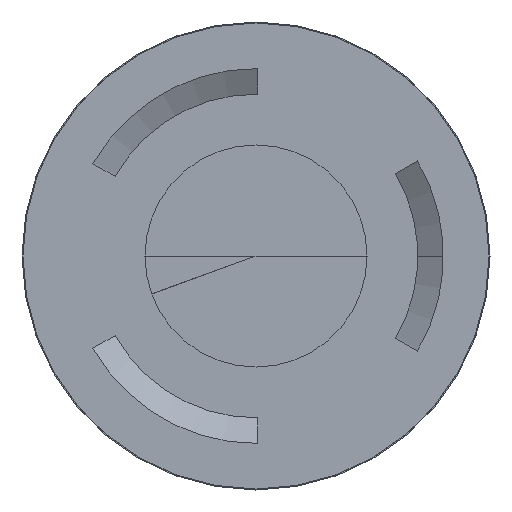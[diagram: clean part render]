
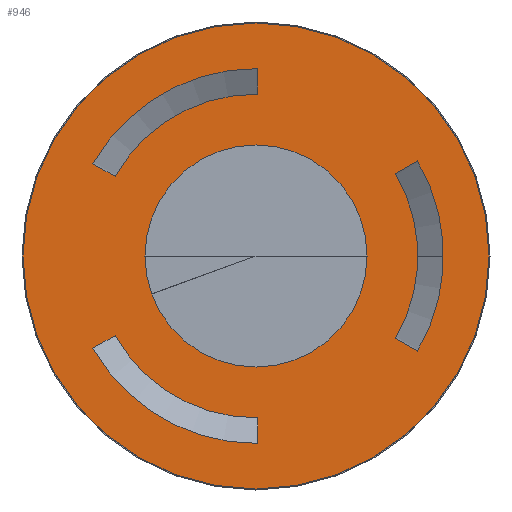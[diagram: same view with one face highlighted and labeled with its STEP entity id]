
A CAD part, front view. The second image highlights one B-rep face of the part: STEP entity #946.
In plain terms, the highlighted planar face has unit normal (0, -1, 0).
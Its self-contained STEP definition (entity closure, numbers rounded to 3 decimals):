
#203=DIRECTION('',(-0.866,0.,-0.5));
#204=VECTOR('',#203,7.092);
#205=CARTESIAN_POINT('',(-39.066,-966.,-22.04));
#206=LINE('',#205,#204);
#207=CARTESIAN_POINT('',(0.,-966.,0.));
#208=DIRECTION('',(0.,-1.,0.));
#209=DIRECTION('',(-0.87,0.,-0.493));
#210=AXIS2_PLACEMENT_3D('',#207,#208,#209);
#212=DIRECTION('',(0.,0.,1.));
#213=VECTOR('',#212,7.092);
#214=CARTESIAN_POINT('',(0.446,-966.,-51.944));
#215=LINE('',#214,#213);
#216=CARTESIAN_POINT('',(0.,-966.,0.));
#217=DIRECTION('',(0.,1.,0.));
#218=DIRECTION('',(0.01,0.,-1.));
#219=AXIS2_PLACEMENT_3D('',#216,#217,#218);
#221=CARTESIAN_POINT('',(0.,-966.,0.));
#222=DIRECTION('',(0.,1.,0.));
#223=DIRECTION('',(0.861,0.,0.509));
#224=AXIS2_PLACEMENT_3D('',#221,#222,#223);
#226=DIRECTION('',(0.866,0.,-0.5));
#227=VECTOR('',#226,7.092);
#228=CARTESIAN_POINT('',(38.62,-966.,-22.812));
#229=LINE('',#228,#227);
#230=CARTESIAN_POINT('',(0.,-966.,0.));
#231=DIRECTION('',(0.,-1.,0.));
#232=DIRECTION('',(0.862,0.,-0.507));
#233=AXIS2_PLACEMENT_3D('',#230,#231,#232);
#235=DIRECTION('',(-0.866,0.,-0.5));
#236=VECTOR('',#235,7.092);
#237=CARTESIAN_POINT('',(44.762,-966.,26.358));
#238=LINE('',#237,#236);
#239=DIRECTION('',(0.866,0.,-0.5));
#240=VECTOR('',#239,7.092);
#241=CARTESIAN_POINT('',(-45.208,-966.,25.586));
#242=LINE('',#241,#240);
#243=CARTESIAN_POINT('',(0.,-966.,0.));
#244=DIRECTION('',(0.,1.,0.));
#245=DIRECTION('',(-0.871,0.,0.491));
#246=AXIS2_PLACEMENT_3D('',#243,#244,#245);
#248=DIRECTION('',(0.,0.,1.));
#249=VECTOR('',#248,7.092);
#250=CARTESIAN_POINT('',(0.446,-966.,44.852));
#251=LINE('',#250,#249);
#252=CARTESIAN_POINT('',(0.,-966.,0.));
#253=DIRECTION('',(0.,-1.,0.));
#254=DIRECTION('',(0.009,0.,1.));
#255=AXIS2_PLACEMENT_3D('',#252,#253,#254);
#257=CARTESIAN_POINT('',(0.,-966.,0.));
#258=DIRECTION('',(0.,1.,0.));
#259=DIRECTION('',(1.,0.,0.));
#260=AXIS2_PLACEMENT_3D('',#257,#258,#259);
#262=CARTESIAN_POINT('',(0.,-966.,0.));
#263=DIRECTION('',(0.,1.,0.));
#264=DIRECTION('',(-1.,0.,0.));
#265=AXIS2_PLACEMENT_3D('',#262,#263,#264);
#267=CARTESIAN_POINT('',(0.,-966.,0.));
#268=DIRECTION('',(0.,1.,0.));
#269=DIRECTION('',(1.,0.,0.));
#270=AXIS2_PLACEMENT_3D('',#267,#268,#269);
#272=CARTESIAN_POINT('',(0.,-966.,0.));
#273=DIRECTION('',(0.,1.,0.));
#274=DIRECTION('',(-1.,0.,0.));
#275=AXIS2_PLACEMENT_3D('',#272,#273,#274);
#526=CARTESIAN_POINT('',(64.586,-966.,0.));
#527=CARTESIAN_POINT('',(-64.586,-966.,0.));
#528=VERTEX_POINT('',#526);
#529=VERTEX_POINT('',#527);
#530=CARTESIAN_POINT('',(30.784,-966.,0.));
#531=CARTESIAN_POINT('',(-30.784,-966.,0.));
#532=VERTEX_POINT('',#530);
#533=VERTEX_POINT('',#531);
#534=CARTESIAN_POINT('',(-39.066,-966.,22.04));
#535=CARTESIAN_POINT('',(-45.208,-966.,25.586));
#536=VERTEX_POINT('',#534);
#537=VERTEX_POINT('',#535);
#538=CARTESIAN_POINT('',(0.446,-966.,51.944));
#539=VERTEX_POINT('',#538);
#540=CARTESIAN_POINT('',(0.446,-966.,44.852));
#541=VERTEX_POINT('',#540);
#542=CARTESIAN_POINT('',(38.62,-966.,-22.812));
#543=CARTESIAN_POINT('',(38.62,-966.,22.812));
#544=VERTEX_POINT('',#542);
#545=VERTEX_POINT('',#543);
#546=CARTESIAN_POINT('',(44.762,-966.,26.358));
#547=VERTEX_POINT('',#546);
#548=CARTESIAN_POINT('',(44.762,-966.,-26.358));
#549=VERTEX_POINT('',#548);
#550=CARTESIAN_POINT('',(-45.208,-966.,-25.586));
#551=CARTESIAN_POINT('',(-39.066,-966.,-22.04));
#552=VERTEX_POINT('',#550);
#553=VERTEX_POINT('',#551);
#554=CARTESIAN_POINT('',(0.446,-966.,-44.852));
#555=VERTEX_POINT('',#554);
#556=CARTESIAN_POINT('',(0.446,-966.,-51.944));
#557=VERTEX_POINT('',#556);
#899=CARTESIAN_POINT('',(0.,-966.,0.));
#900=DIRECTION('',(0.,1.,0.));
#901=DIRECTION('',(1.,0.,0.));
#902=AXIS2_PLACEMENT_3D('',#899,#900,#901);
#903=PLANE('',#902);
#905=ORIENTED_EDGE('',*,*,#904,.T.);
#907=ORIENTED_EDGE('',*,*,#906,.T.);
#908=EDGE_LOOP('',(#905,#907));
#909=FACE_OUTER_BOUND('',#908,.F.);
#911=ORIENTED_EDGE('',*,*,#910,.T.);
#913=ORIENTED_EDGE('',*,*,#912,.T.);
#915=ORIENTED_EDGE('',*,*,#914,.T.);
#917=ORIENTED_EDGE('',*,*,#916,.T.);
#918=EDGE_LOOP('',(#911,#913,#915,#917));
#919=FACE_BOUND('',#918,.F.);
#921=ORIENTED_EDGE('',*,*,#920,.T.);
#923=ORIENTED_EDGE('',*,*,#922,.T.);
#925=ORIENTED_EDGE('',*,*,#924,.T.);
#927=ORIENTED_EDGE('',*,*,#926,.T.);
#928=EDGE_LOOP('',(#921,#923,#925,#927));
#929=FACE_BOUND('',#928,.F.);
#931=ORIENTED_EDGE('',*,*,#930,.F.);
#933=ORIENTED_EDGE('',*,*,#932,.F.);
#934=EDGE_LOOP('',(#931,#933));
#935=FACE_BOUND('',#934,.F.);
#937=ORIENTED_EDGE('',*,*,#936,.T.);
#939=ORIENTED_EDGE('',*,*,#938,.T.);
#941=ORIENTED_EDGE('',*,*,#940,.T.);
#943=ORIENTED_EDGE('',*,*,#942,.T.);
#944=EDGE_LOOP('',(#937,#939,#941,#943));
#945=FACE_BOUND('',#944,.F.);
#946=ADVANCED_FACE('',(#909,#919,#929,#935,#945),#903,.F.);
#211=CIRCLE('',#210,51.946);
#220=CIRCLE('',#219,44.854);
#225=CIRCLE('',#224,44.854);
#234=CIRCLE('',#233,51.946);
#247=CIRCLE('',#246,44.854);
#256=CIRCLE('',#255,51.946);
#261=CIRCLE('',#260,30.784);
#266=CIRCLE('',#265,30.784);
#271=CIRCLE('',#270,64.586);
#276=CIRCLE('',#275,64.586);
#904=EDGE_CURVE('',#528,#529,#271,.T.);
#906=EDGE_CURVE('',#529,#528,#276,.T.);
#910=EDGE_CURVE('',#545,#544,#225,.T.);
#912=EDGE_CURVE('',#544,#549,#229,.T.);
#914=EDGE_CURVE('',#549,#547,#234,.T.);
#916=EDGE_CURVE('',#547,#545,#238,.T.);
#920=EDGE_CURVE('',#537,#536,#242,.T.);
#922=EDGE_CURVE('',#536,#541,#247,.T.);
#924=EDGE_CURVE('',#541,#539,#251,.T.);
#926=EDGE_CURVE('',#539,#537,#256,.T.);
#930=EDGE_CURVE('',#532,#533,#261,.T.);
#932=EDGE_CURVE('',#533,#532,#266,.T.);
#936=EDGE_CURVE('',#553,#552,#206,.T.);
#938=EDGE_CURVE('',#552,#557,#211,.T.);
#940=EDGE_CURVE('',#557,#555,#215,.T.);
#942=EDGE_CURVE('',#555,#553,#220,.T.);
